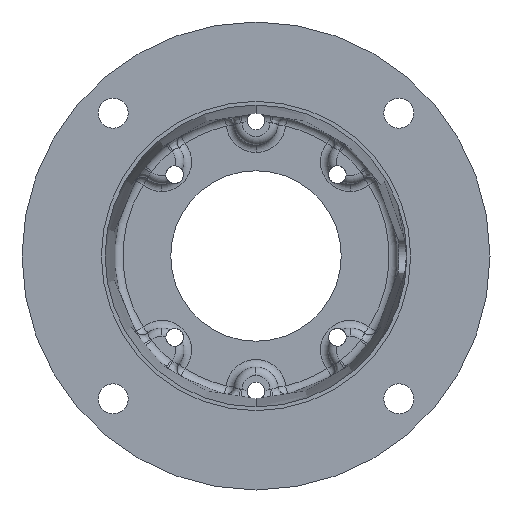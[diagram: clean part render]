
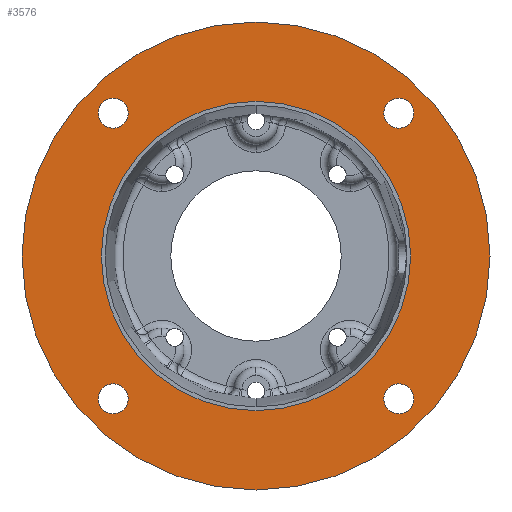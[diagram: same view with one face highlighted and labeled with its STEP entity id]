
A CAD part, front view. The second image highlights one B-rep face of the part: STEP entity #3576.
In plain terms, the highlighted planar face has unit normal (0, -1, 0).
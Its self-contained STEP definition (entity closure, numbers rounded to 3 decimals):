
#45 = AXIS2_PLACEMENT_3D ( 'NONE', #3868, #8789, #4574 ) ;
#130 = ORIENTED_EDGE ( 'NONE', *, *, #6909, .T. ) ;
#275 = VERTEX_POINT ( 'NONE', #6176 ) ;
#343 = CARTESIAN_POINT ( 'NONE',  ( -52.804, 0., 47.248 ) ) ;
#371 = EDGE_CURVE ( 'NONE', #7725, #6613, #6725, .T. ) ;
#389 = CARTESIAN_POINT ( 'NONE',  ( 0., 0., 57.163 ) ) ;
#400 = CARTESIAN_POINT ( 'NONE',  ( 52.804, 0., 52.804 ) ) ;
#408 = AXIS2_PLACEMENT_3D ( 'NONE', #3863, #7572, #3657 ) ;
#443 = CARTESIAN_POINT ( 'NONE',  ( 52.804, 0., 47.248 ) ) ;
#445 = CIRCLE ( 'NONE', #2083, 57.163 ) ;
#490 = EDGE_CURVE ( 'NONE', #2136, #4394, #6483, .T. ) ;
#576 = AXIS2_PLACEMENT_3D ( 'NONE', #2424, #7316, #3141 ) ;
#619 = PLANE ( 'NONE',  #3529 ) ;
#832 = AXIS2_PLACEMENT_3D ( 'NONE', #400, #5230, #1089 ) ;
#841 = EDGE_CURVE ( 'NONE', #4394, #2136, #5714, .T. ) ;
#915 = CARTESIAN_POINT ( 'NONE',  ( 0., 0., 0. ) ) ;
#928 = EDGE_LOOP ( 'NONE', ( #7891, #2050 ) ) ;
#998 = CARTESIAN_POINT ( 'NONE',  ( -52.804, 0., -58.36 ) ) ;
#1089 = DIRECTION ( 'NONE',  ( 0., 0., 1. ) ) ;
#1215 = AXIS2_PLACEMENT_3D ( 'NONE', #2067, #6256, #1384 ) ;
#1223 = CIRCLE ( 'NONE', #1937, 5.556 ) ;
#1261 = AXIS2_PLACEMENT_3D ( 'NONE', #6454, #2269, #7166 ) ;
#1384 = DIRECTION ( 'NONE',  ( 0., 0., -1. ) ) ;
#1397 = DIRECTION ( 'NONE',  ( 0., 1., 0. ) ) ;
#1436 = CARTESIAN_POINT ( 'NONE',  ( 0., 0., 86.487 ) ) ;
#1545 = CARTESIAN_POINT ( 'NONE',  ( -52.804, 0., -47.248 ) ) ;
#1590 = DIRECTION ( 'NONE',  ( 0., 0., -1. ) ) ;
#1714 = ORIENTED_EDGE ( 'NONE', *, *, #6419, .T. ) ;
#1817 = CARTESIAN_POINT ( 'NONE',  ( -52.804, 0., -52.804 ) ) ;
#1872 = DIRECTION ( 'NONE',  ( 0., 1., 0. ) ) ;
#1937 = AXIS2_PLACEMENT_3D ( 'NONE', #1817, #6713, #2527 ) ;
#2050 = ORIENTED_EDGE ( 'NONE', *, *, #7071, .F. ) ;
#2067 = CARTESIAN_POINT ( 'NONE',  ( 0., 0., 0. ) ) ;
#2083 = AXIS2_PLACEMENT_3D ( 'NONE', #915, #5764, #1590 ) ;
#2136 = VERTEX_POINT ( 'NONE', #4658 ) ;
#2269 = DIRECTION ( 'NONE',  ( 0., -1., 0. ) ) ;
#2341 = AXIS2_PLACEMENT_3D ( 'NONE', #7467, #3278, #8187 ) ;
#2424 = CARTESIAN_POINT ( 'NONE',  ( 52.804, 0., 52.804 ) ) ;
#2468 = EDGE_LOOP ( 'NONE', ( #6834, #3359 ) ) ;
#2527 = DIRECTION ( 'NONE',  ( 0., 0., 1. ) ) ;
#2742 = VERTEX_POINT ( 'NONE', #1545 ) ;
#2754 = CIRCLE ( 'NONE', #5509, 5.556 ) ;
#2921 = CARTESIAN_POINT ( 'NONE',  ( 0., 0., -86.487 ) ) ;
#2926 = EDGE_CURVE ( 'NONE', #4785, #2985, #6247, .T. ) ;
#2971 = CIRCLE ( 'NONE', #2341, 5.556 ) ;
#2985 = VERTEX_POINT ( 'NONE', #343 ) ;
#3141 = DIRECTION ( 'NONE',  ( 0., 0., 1. ) ) ;
#3273 = DIRECTION ( 'NONE',  ( 0., 1., 0. ) ) ;
#3278 = DIRECTION ( 'NONE',  ( 0., 1., 0. ) ) ;
#3359 = ORIENTED_EDGE ( 'NONE', *, *, #6389, .T. ) ;
#3371 = EDGE_LOOP ( 'NONE', ( #6283, #5090 ) ) ;
#3529 = AXIS2_PLACEMENT_3D ( 'NONE', #6881, #8318, #4101 ) ;
#3576 = ADVANCED_FACE ( 'NONE', ( #7105, #9012, #5226, #8771, #6903, #5017 ), #619, .F. ) ;
#3657 = DIRECTION ( 'NONE',  ( 0., 0., 1. ) ) ;
#3769 = EDGE_LOOP ( 'NONE', ( #5490, #1714 ) ) ;
#3863 = CARTESIAN_POINT ( 'NONE',  ( 52.804, 0., -52.804 ) ) ;
#3868 = CARTESIAN_POINT ( 'NONE',  ( 0., 0., 0. ) ) ;
#3967 = EDGE_LOOP ( 'NONE', ( #7502, #8479 ) ) ;
#4019 = AXIS2_PLACEMENT_3D ( 'NONE', #4667, #3273, #8177 ) ;
#4101 = DIRECTION ( 'NONE',  ( 0., 0., 1. ) ) ;
#4394 = VERTEX_POINT ( 'NONE', #6349 ) ;
#4574 = DIRECTION ( 'NONE',  ( 0., 0., -1. ) ) ;
#4658 = CARTESIAN_POINT ( 'NONE',  ( 52.804, 0., -47.248 ) ) ;
#4667 = CARTESIAN_POINT ( 'NONE',  ( 52.804, 0., -52.804 ) ) ;
#4686 = EDGE_CURVE ( 'NONE', #2742, #7936, #2971, .T. ) ;
#4785 = VERTEX_POINT ( 'NONE', #6798 ) ;
#5017 = FACE_OUTER_BOUND ( 'NONE', #3371, .T. ) ;
#5090 = ORIENTED_EDGE ( 'NONE', *, *, #7337, .T. ) ;
#5194 = CIRCLE ( 'NONE', #832, 5.556 ) ;
#5226 = FACE_BOUND ( 'NONE', #3769, .T. ) ;
#5230 = DIRECTION ( 'NONE',  ( 0., 1., 0. ) ) ;
#5490 = ORIENTED_EDGE ( 'NONE', *, *, #4686, .T. ) ;
#5509 = AXIS2_PLACEMENT_3D ( 'NONE', #5561, #1397, #6270 ) ;
#5554 = CIRCLE ( 'NONE', #45, 57.163 ) ;
#5561 = CARTESIAN_POINT ( 'NONE',  ( -52.804, 0., 52.804 ) ) ;
#5714 = CIRCLE ( 'NONE', #408, 5.556 ) ;
#5764 = DIRECTION ( 'NONE',  ( 0., -1., 0. ) ) ;
#5978 = VERTEX_POINT ( 'NONE', #443 ) ;
#6053 = CARTESIAN_POINT ( 'NONE',  ( -52.804, 0., 52.804 ) ) ;
#6176 = CARTESIAN_POINT ( 'NONE',  ( 52.804, 0., 58.36 ) ) ;
#6247 = CIRCLE ( 'NONE', #6371, 5.556 ) ;
#6256 = DIRECTION ( 'NONE',  ( 0., -1., 0. ) ) ;
#6270 = DIRECTION ( 'NONE',  ( 0., 0., 1. ) ) ;
#6283 = ORIENTED_EDGE ( 'NONE', *, *, #371, .T. ) ;
#6319 = CIRCLE ( 'NONE', #1261, 86.487 ) ;
#6349 = CARTESIAN_POINT ( 'NONE',  ( 52.804, 0., -58.36 ) ) ;
#6371 = AXIS2_PLACEMENT_3D ( 'NONE', #6053, #1872, #6773 ) ;
#6389 = EDGE_CURVE ( 'NONE', #5978, #275, #6990, .T. ) ;
#6419 = EDGE_CURVE ( 'NONE', #7936, #2742, #1223, .T. ) ;
#6454 = CARTESIAN_POINT ( 'NONE',  ( 0., 0., 0. ) ) ;
#6483 = CIRCLE ( 'NONE', #4019, 5.556 ) ;
#6495 = ORIENTED_EDGE ( 'NONE', *, *, #2926, .T. ) ;
#6613 = VERTEX_POINT ( 'NONE', #1436 ) ;
#6713 = DIRECTION ( 'NONE',  ( 0., 1., 0. ) ) ;
#6725 = CIRCLE ( 'NONE', #1215, 86.487 ) ;
#6773 = DIRECTION ( 'NONE',  ( 0., 0., 1. ) ) ;
#6798 = CARTESIAN_POINT ( 'NONE',  ( -52.804, 0., 58.36 ) ) ;
#6834 = ORIENTED_EDGE ( 'NONE', *, *, #8396, .T. ) ;
#6881 = CARTESIAN_POINT ( 'NONE',  ( -55.96, 0., 0. ) ) ;
#6903 = FACE_BOUND ( 'NONE', #2468, .T. ) ;
#6909 = EDGE_CURVE ( 'NONE', #2985, #4785, #2754, .T. ) ;
#6990 = CIRCLE ( 'NONE', #576, 5.556 ) ;
#7071 = EDGE_CURVE ( 'NONE', #8828, #8815, #5554, .T. ) ;
#7105 = FACE_BOUND ( 'NONE', #928, .T. ) ;
#7166 = DIRECTION ( 'NONE',  ( 0., 0., -1. ) ) ;
#7316 = DIRECTION ( 'NONE',  ( 0., 1., 0. ) ) ;
#7322 = CARTESIAN_POINT ( 'NONE',  ( 0., 0., -57.163 ) ) ;
#7337 = EDGE_CURVE ( 'NONE', #6613, #7725, #6319, .T. ) ;
#7467 = CARTESIAN_POINT ( 'NONE',  ( -52.804, 0., -52.804 ) ) ;
#7502 = ORIENTED_EDGE ( 'NONE', *, *, #490, .T. ) ;
#7572 = DIRECTION ( 'NONE',  ( 0., 1., 0. ) ) ;
#7725 = VERTEX_POINT ( 'NONE', #2921 ) ;
#7775 = EDGE_CURVE ( 'NONE', #8815, #8828, #445, .T. ) ;
#7891 = ORIENTED_EDGE ( 'NONE', *, *, #7775, .F. ) ;
#7936 = VERTEX_POINT ( 'NONE', #998 ) ;
#8177 = DIRECTION ( 'NONE',  ( 0., 0., 1. ) ) ;
#8187 = DIRECTION ( 'NONE',  ( 0., 0., 1. ) ) ;
#8318 = DIRECTION ( 'NONE',  ( 0., 1., 0. ) ) ;
#8396 = EDGE_CURVE ( 'NONE', #275, #5978, #5194, .T. ) ;
#8479 = ORIENTED_EDGE ( 'NONE', *, *, #841, .T. ) ;
#8517 = EDGE_LOOP ( 'NONE', ( #6495, #130 ) ) ;
#8771 = FACE_BOUND ( 'NONE', #8517, .T. ) ;
#8789 = DIRECTION ( 'NONE',  ( 0., -1., 0. ) ) ;
#8815 = VERTEX_POINT ( 'NONE', #7322 ) ;
#8828 = VERTEX_POINT ( 'NONE', #389 ) ;
#9012 = FACE_BOUND ( 'NONE', #3967, .T. ) ;
